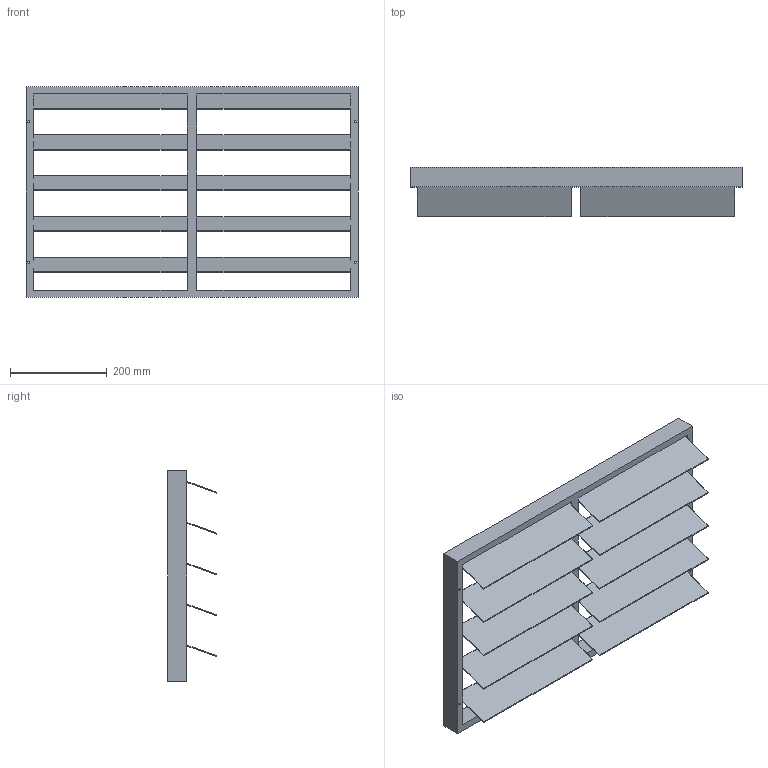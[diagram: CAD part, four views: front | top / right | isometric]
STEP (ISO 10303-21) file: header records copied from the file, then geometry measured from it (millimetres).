
FILE_DESCRIPTION(/* description */ (''),/* implementation_level */ '2;1');
FILE_NAME(/* name */ 'Z:\Output\VK_60-35-00878-001.stp',/* time_stamp */ '2017-09-29T10:34:55+02:00',/* author */ ('pareshmistry'),/* organization */ (''),/* preprocessor_version */ 'ST-DEVELOPER v16.5',/* originating_system */ 'Autodesk Inventor 2017',/* authorisation */ '');
FILE_SCHEMA (('AUTOMOTIVE_DESIGN { 1 0 10303 214 3 1 1 }'));
Length unit declared in the file: millimetre
Products named in the file (1): VK-2
Bounding box: 685 x 101 x 435 mm (x, y, z)
Volume: 2144339.4 mm3; surface area: 850409.9 mm2
Topology: 1 solids, 1 shells, 84 faces, 256 edges, 156 vertices
Faces by surface type: plane 80, cylinder 4
Full cylindrical faces by diameter (mm): 4 x4
Entity records: 2794 total; most frequent: ORIENTED_EDGE 500, CARTESIAN_POINT 485, DIRECTION 426, EDGE_CURVE 248, LINE 240, VECTOR 240, VERTEX_POINT 152, EDGE_LOOP 100
